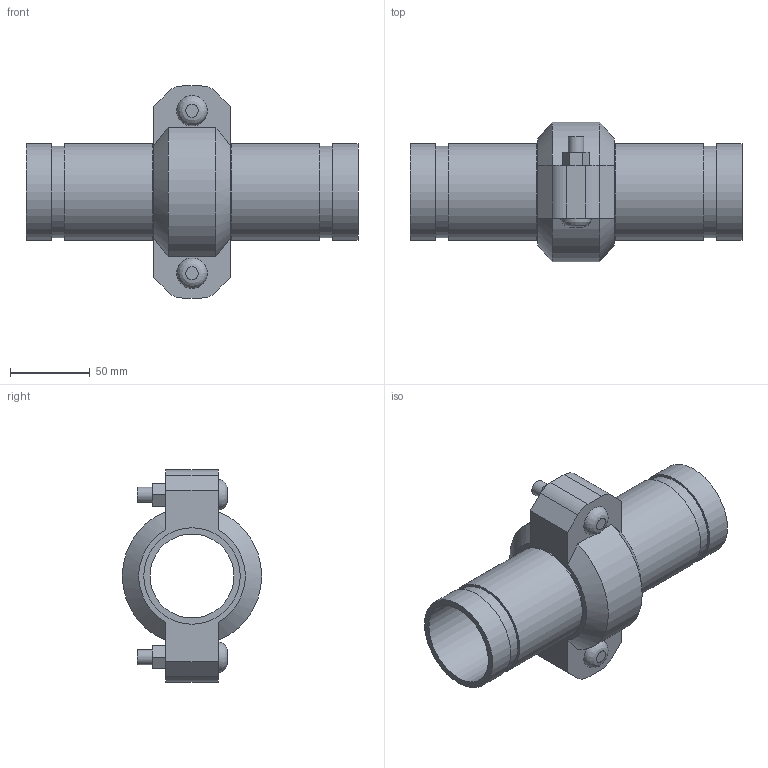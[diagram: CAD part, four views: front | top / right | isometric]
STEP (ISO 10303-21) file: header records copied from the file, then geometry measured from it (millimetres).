
FILE_DESCRIPTION(/* description */ ('VIC EXPANSION JOINT 1 COUPLING EXPANDED STYLE 155 (OGS)','CAx-IF Rec.Pracs.---Representation and Presentation of Product Manufacturing Information (PMI)---4.0---2014-10-13'),/* implementation_level */ '2;1');
FILE_NAME(/* name */ 'C:\Users\kkamble\AppData\Roaming\Autodesk\ApplicationPlugins\Victaulic.Temp\A694\Victaulic_IPS_Expansion Joint_Expanded_1 Coupling_Style 155 (OGS)_2 (50).stp',/* time_stamp */ '2021-06-26T23:47:20+02:00',/* author */ ('kkamble'),/* organization */ ('Victaulic'),/* preprocessor_version */ 'ST-DEVELOPER v17.2',/* originating_system */ 'Autodesk Inventor 2019',/* authorisation */ '');
FILE_SCHEMA (('AP242_MANAGED_MODEL_BASED_3D_ENGINEERING_MIM_LF { 1 0 10303 442 1 1 4 }'));
Length unit declared in the file: inch
Products named in the file (3): 155-02.0; Nipple-02.0; 075-02.0
Assembly tree (3 placements, depth 2):
  155-02.0
    Nipple-02.0  x2
    075-02.0
Bounding box: 207.52 x 87.12 x 132.59 mm (x, y, z)
Volume: 334345.5 mm3; surface area: 117648.1 mm2
Topology: 3 solids, 5 shells, 81 faces, 193 edges, 138 vertices
Faces by surface type: plane 48, cylinder 27, cone 4, bspline 2
Full cylindrical faces by diameter (mm): 9.525 x4, 11.43 x2, 52.502 x2, 53.975 x1, 57.15 x4, 60.325 x8
Entity records: 2301 total; most frequent: CARTESIAN_POINT 420, DIRECTION 369, ORIENTED_EDGE 326, EDGE_CURVE 163, AXIS2_PLACEMENT_3D 141, VERTEX_POINT 114, EDGE_LOOP 89, LINE 87
